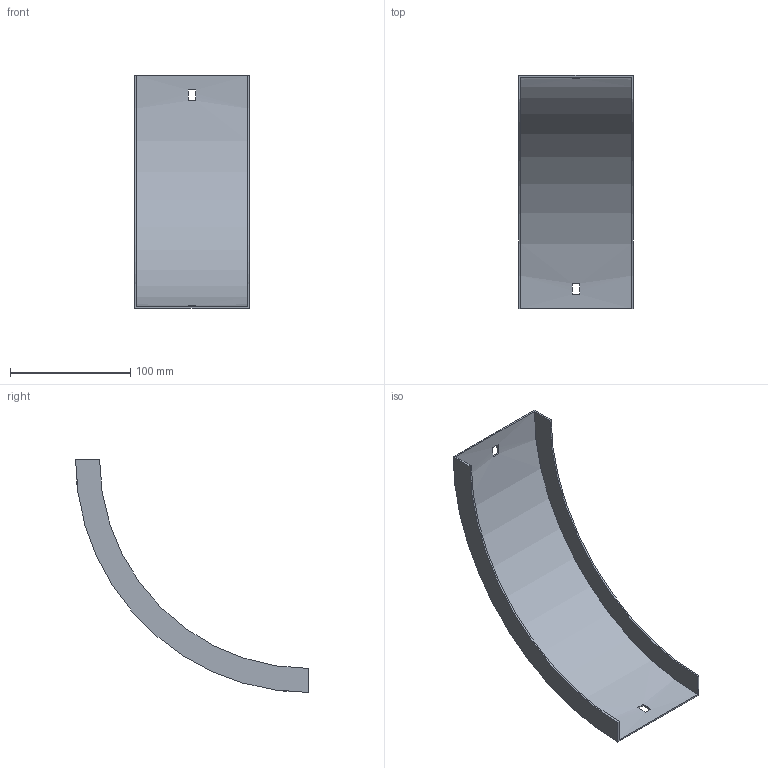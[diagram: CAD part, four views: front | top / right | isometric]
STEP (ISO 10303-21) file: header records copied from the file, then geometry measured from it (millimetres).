
FILE_DESCRIPTION (( 'STEP AP214' ), '1' );
FILE_NAME ('33N1I092.step', '2025-02-21T09:19:23', ( '' ), ( '' ), 'SwSTEP 2.0', 'SolidWorks 2023', '' );
FILE_SCHEMA (( 'AUTOMOTIVE_DESIGN' ));
Length unit declared in the file: millimetre
Products named in the file (1): 33N1I092
Bounding box: 95.5 x 194 x 194 mm (x, y, z)
Volume: 59283.9 mm3; surface area: 80359.5 mm2
Topology: 1 solids, 1 shells, 18 faces, 48 edges, 32 vertices
Faces by surface type: plane 14, cylinder 4
Entity records: 599 total; most frequent: DIRECTION 102, CARTESIAN_POINT 99, ORIENTED_EDGE 96, EDGE_CURVE 48, AXIS2_PLACEMENT_3D 35, VERTEX_POINT 32, VECTOR 32, LINE 32
